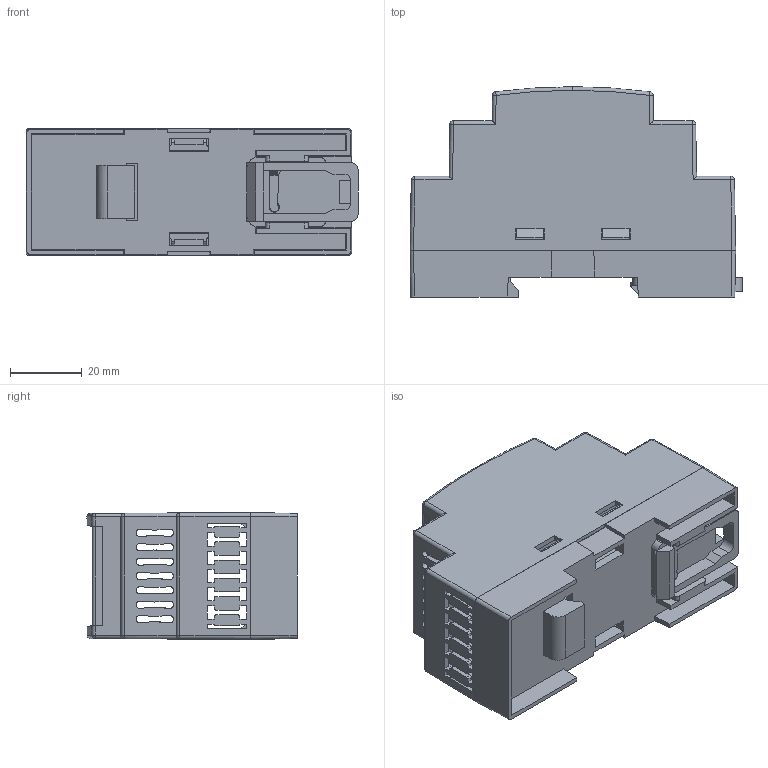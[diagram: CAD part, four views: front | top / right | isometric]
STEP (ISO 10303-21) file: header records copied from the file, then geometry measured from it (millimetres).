
FILE_DESCRIPTION (( 'STEP AP203' ), '1' );
FILE_NAME ('PT202-D.STEP', '2019-09-24T06:49:12', ( '' ), ( '' ), 'SwSTEP 2.0', 'SolidWorks 2019', '' );
FILE_SCHEMA (( 'CONFIG_CONTROL_DESIGN' ));
Length unit declared in the file: millimetre
Products named in the file (5): PT202-D
Assembly tree (4 placements, depth 2):
  PT202-D
    PT202-D
    PT202-D
    PT202-D
    PT202-D
Bounding box: 92.38 x 58.5 x 35.3 mm (x, y, z)
Volume: 34009.1 mm3; surface area: 41448.1 mm2
Topology: 4 solids, 4 shells, 725 faces, 2101 edges, 1380 vertices
Faces by surface type: plane 441, cylinder 255, cone 14, sphere 12, bspline 3
Entity records: 24058 total; most frequent: CARTESIAN_POINT 5576, ORIENTED_EDGE 4186, DIRECTION 3216, EDGE_CURVE 2093, VECTOR 1540, LINE 1540, VERTEX_POINT 1380, AXIS2_PLACEMENT_3D 838
